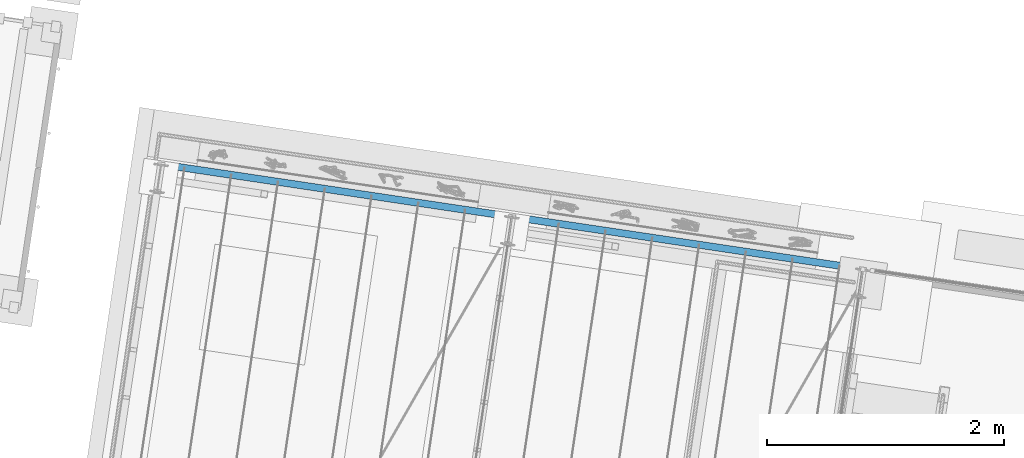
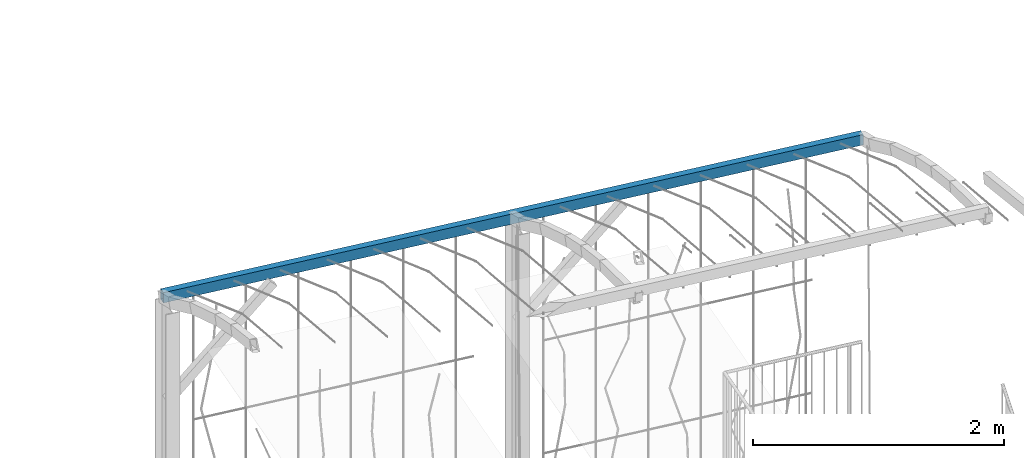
# One storey, part 40 of 142: 1 beam, 1 element without a shape of its own.
"""IFC4 building model written with IfcOpenShell, lengths in metres."""

from ifc_helpers import new_model, si_unit, direction, frame, origin_with_axes, place, context, subcontext, project, spatial, hollow_rectangle, extrude, material, material_profile, profile_set, profile_usage, type_object, element, aggregate, save


model = new_model("IFC4")

# Units and contexts
model_context = context("Model", 3, precision=1e-05, world=origin_with_axes(), true_north=direction((0.0, 1.0)))
body_context = subcontext(model_context, "Body", "Model", "MODEL_VIEW")
ifc_project = project(units=[si_unit("VOLUMEUNIT", "CUBIC_METRE"), si_unit("LENGTHUNIT", "METRE"), si_unit("AREAUNIT", "SQUARE_METRE")], contexts=[model_context])

# Site, building, storey
site_placement = place(None, origin_with_axes())
site = spatial("IfcSite", under=ifc_project, at=site_placement, Name="Lares · Rua das Mercês · artigo 4771")
building_placement = place(site_placement, frame((12.0, 10.2, 13.9), z_axis=(0.0, 0.0, 1.0), x_axis=(0.989015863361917, -0.147809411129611, 0.0)))
building = spatial("IfcBuilding", under=site, at=building_placement, Name="Casa Sobreposta")
storey_placement = place(building_placement, origin_with_axes())
storey = spatial("IfcBuildingStorey", under=building, at=storey_placement, Name="00 · Habitação e estacionamento", Elevation=13.9)

# Assembly, beam
assembly_placement = place(storey_placement, origin_with_axes())
assembly = element("IfcElementAssembly", 1, at=assembly_placement, inside=storey, Name="Pérgola · prolongamento da estufa 6 m", ObjectType="PERGOLA_GREENHOUSE_EXTENSION", PredefinedType="USERDEFINED")
ifc_material = material(Name="Aço pintado / Stahl lackiert", Category="steel")
ifc_material_profile = material_profile(ifc_material, hollow_rectangle(XDim=0.06, YDim=0.1, WallThickness=0.004))
ifc_profile_set = profile_set([ifc_material_profile], Name="RHS100x60x4")
ifc_profile_usage = profile_usage(ifc_profile_set)
beam_type = type_object("IfcBeamType", Name="RHS100x60x4 / steel", PredefinedType="NOTDEFINED", material=ifc_profile_set)
beam_placement = place(assembly_placement, frame((-6.0, 6.39999999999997, 6.23430000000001), z_axis=(1.0, 0.0, 0.0), x_axis=(0.0, -1.0, 0.0)))
beam = element("IfcBeam", 2, at=beam_placement, type_object=beam_type, material=ifc_profile_usage, Name="Pérgola · terça", context=body_context, shape_type="SweptSolid", body=[
    extrude(hollow_rectangle(XDim=0.06, YDim=0.1, WallThickness=0.004), origin_with_axes(), (0.0, 0.0, 1.0), 6.0),
])
aggregate(assembly, [beam])

save(model, "model.ifc")
